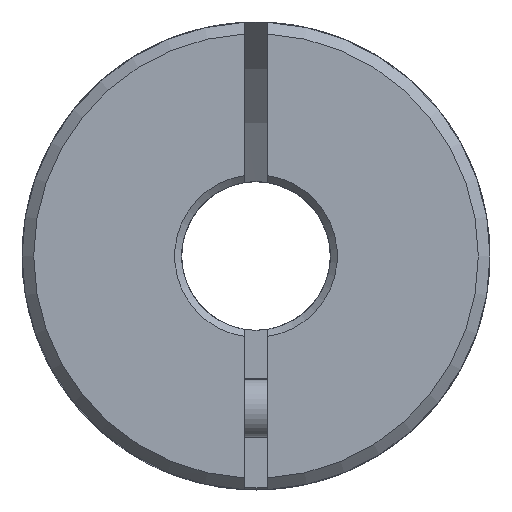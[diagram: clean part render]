
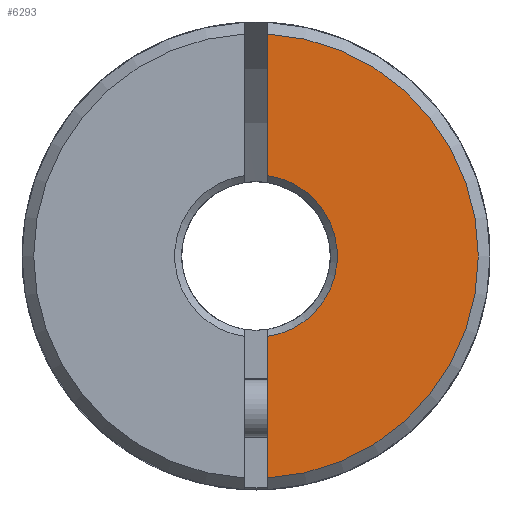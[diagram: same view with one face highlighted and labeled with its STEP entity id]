
A CAD part, front view. The second image highlights one B-rep face of the part: STEP entity #6293.
In plain terms, the highlighted planar face has unit normal (0, -1, 0).
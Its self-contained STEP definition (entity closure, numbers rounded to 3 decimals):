
#205 = ORIENTED_EDGE ( 'NONE', *, *, #1141, .F. ) ;
#596 = VERTEX_POINT ( 'NONE', #9625 ) ;
#824 = CIRCLE ( 'NONE', #9371, 9.5 ) ;
#1141 = EDGE_CURVE ( 'NONE', #5976, #9714, #8455, .T. ) ;
#1225 = CARTESIAN_POINT ( 'NONE',  ( 50., -33., -12.292 ) ) ;
#1431 = DIRECTION ( 'NONE',  ( 0., -1., 0. ) ) ;
#1694 = EDGE_CURVE ( 'NONE', #596, #4430, #8959, .T. ) ;
#1734 = EDGE_LOOP ( 'NONE', ( #2200, #3238, #205, #8143 ) ) ;
#2114 = DIRECTION ( 'NONE',  ( 0., 1., 0. ) ) ;
#2139 = CARTESIAN_POINT ( 'NONE',  ( 0.5, -33., -12.292 ) ) ;
#2200 = ORIENTED_EDGE ( 'NONE', *, *, #1694, .F. ) ;
#2506 = CARTESIAN_POINT ( 'NONE',  ( 0.5, -33., -12.292 ) ) ;
#3238 = ORIENTED_EDGE ( 'NONE', *, *, #4900, .T. ) ;
#3277 = AXIS2_PLACEMENT_3D ( 'NONE', #1225, #2114, #7661 ) ;
#3469 = CIRCLE ( 'NONE', #9981, 3.475 ) ;
#3539 = DIRECTION ( 'NONE',  ( 0., 1., 0. ) ) ;
#4430 = VERTEX_POINT ( 'NONE', #4896 ) ;
#4606 = DIRECTION ( 'NONE',  ( 0., 0., -1. ) ) ;
#4892 = CARTESIAN_POINT ( 'NONE',  ( 0.5, -33., 9.487 ) ) ;
#4896 = CARTESIAN_POINT ( 'NONE',  ( 0.5, -33., -3.439 ) ) ;
#4900 = EDGE_CURVE ( 'NONE', #596, #9714, #824, .T. ) ;
#5359 = CARTESIAN_POINT ( 'NONE',  ( 0., -33., 0. ) ) ;
#5372 = DIRECTION ( 'NONE',  ( 0., 0., 1. ) ) ;
#5944 = PLANE ( 'NONE',  #3277 ) ;
#5976 = VERTEX_POINT ( 'NONE', #8794 ) ;
#6071 = EDGE_CURVE ( 'NONE', #5976, #4430, #3469, .T. ) ;
#6293 = ADVANCED_FACE ( 'NONE', ( #8412 ), #5944, .F. ) ;
#6421 = DIRECTION ( 'NONE',  ( 0., 0., 1. ) ) ;
#6709 = VECTOR ( 'NONE', #5372, 1000. ) ;
#7359 = DIRECTION ( 'NONE',  ( 0., 0., -1. ) ) ;
#7395 = CARTESIAN_POINT ( 'NONE',  ( 0., -33., 0. ) ) ;
#7661 = DIRECTION ( 'NONE',  ( 0., 0., -1. ) ) ;
#8143 = ORIENTED_EDGE ( 'NONE', *, *, #6071, .T. ) ;
#8412 = FACE_OUTER_BOUND ( 'NONE', #1734, .T. ) ;
#8455 = LINE ( 'NONE', #2506, #9219 ) ;
#8794 = CARTESIAN_POINT ( 'NONE',  ( 0.5, -33., 3.439 ) ) ;
#8959 = LINE ( 'NONE', #2139, #6709 ) ;
#9219 = VECTOR ( 'NONE', #6421, 1000. ) ;
#9371 = AXIS2_PLACEMENT_3D ( 'NONE', #5359, #1431, #4606 ) ;
#9625 = CARTESIAN_POINT ( 'NONE',  ( 0.5, -33., -9.487 ) ) ;
#9714 = VERTEX_POINT ( 'NONE', #4892 ) ;
#9981 = AXIS2_PLACEMENT_3D ( 'NONE', #7395, #3539, #7359 ) ;
